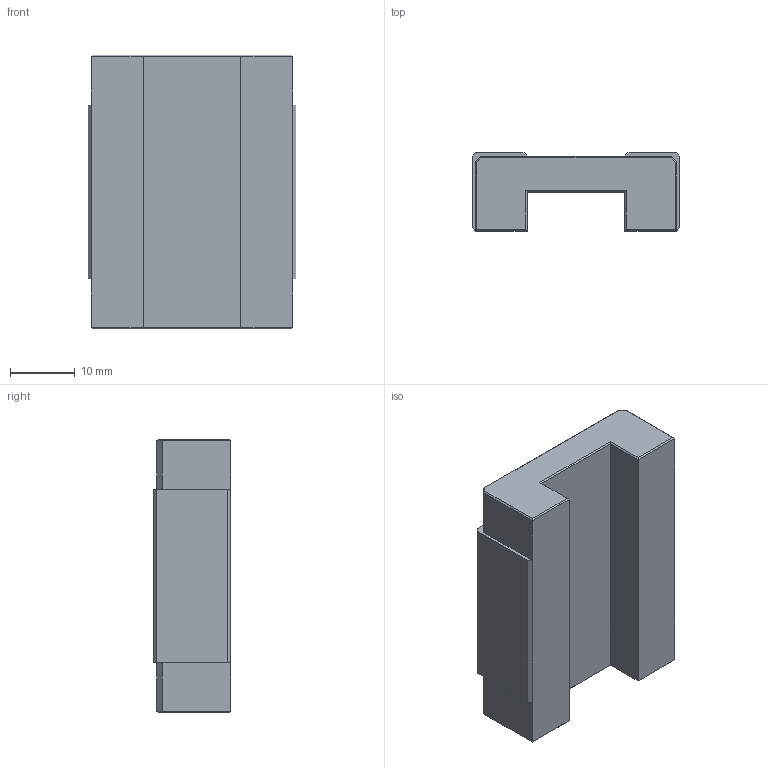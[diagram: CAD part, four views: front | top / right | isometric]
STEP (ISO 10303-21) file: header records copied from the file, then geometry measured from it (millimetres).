
FILE_DESCRIPTION(/* description */ (''),/* implementation_level */ '2;1');
FILE_NAME(/* name */ 'C:\Users\daviddillkoetter\ownCloud\Kamp und Kötter\Artikel\Miniaturfuehrungen_KPM\Step\KPMW-15C-BSZ0.stp',/* time_stamp */ '2020-12-07T12:25:05+01:00',/* author */ ('daviddillkoetter'),/* organization */ (''),/* preprocessor_version */ 'ST-DEVELOPER v18.1',/* originating_system */ 'Autodesk Inventor 2021',/* authorisation */ '');
FILE_SCHEMA (('AUTOMOTIVE_DESIGN { 1 0 10303 214 3 1 1 }'));
Length unit declared in the file: millimetre
Products named in the file (1): KPMW-15C-BSZ0
Bounding box: 32 x 12 x 42.1 mm (x, y, z)
Volume: 11571.9 mm3; surface area: 4829.2 mm2
Topology: 1 solids, 1 shells, 62 faces, 152 edges, 92 vertices
Faces by surface type: plane 50, cone 8, cylinder 4
Full cylindrical faces by diameter (mm): 2.459 x4
Entity records: 1819 total; most frequent: CARTESIAN_POINT 303, ORIENTED_EDGE 296, DIRECTION 290, EDGE_CURVE 148, LINE 132, VECTOR 132, VERTEX_POINT 92, AXIS2_PLACEMENT_3D 79
